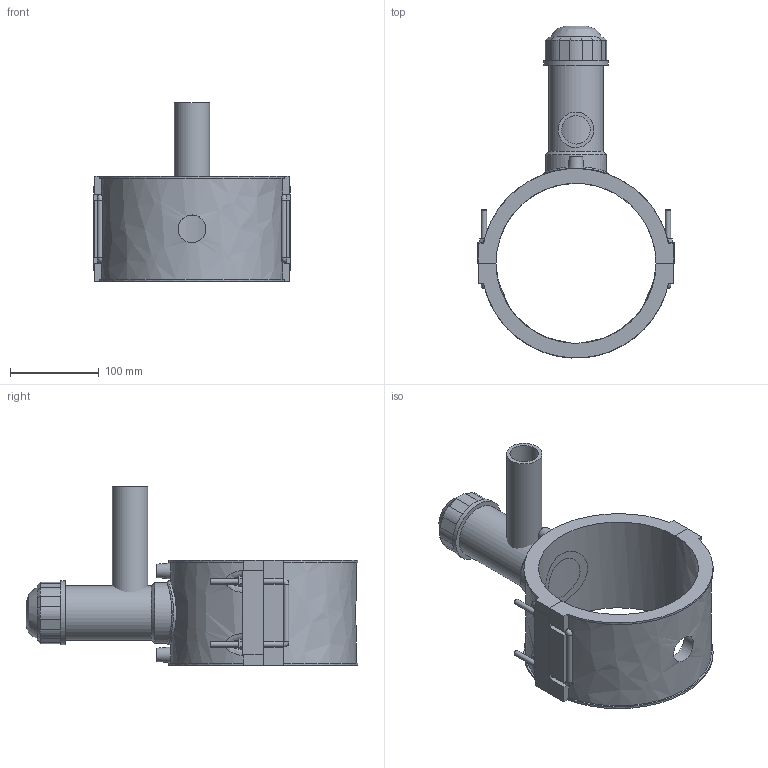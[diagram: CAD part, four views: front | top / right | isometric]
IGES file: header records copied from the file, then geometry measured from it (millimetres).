
Global section: file name: 4963P4180040; native system: Autodesk Inventor 2019; preprocessor: unknown; author: KIM; date: 20220317.113101; units: millimetre
Bounding box: 221 x 373.35 x 201 mm (x, y, z)
Volume: 1485553 mm3; surface area: 288001.1 mm2
Topology: 3 solids, 5 shells, 193 faces, 492 edges, 316 vertices
Faces by surface type: bspline 193
